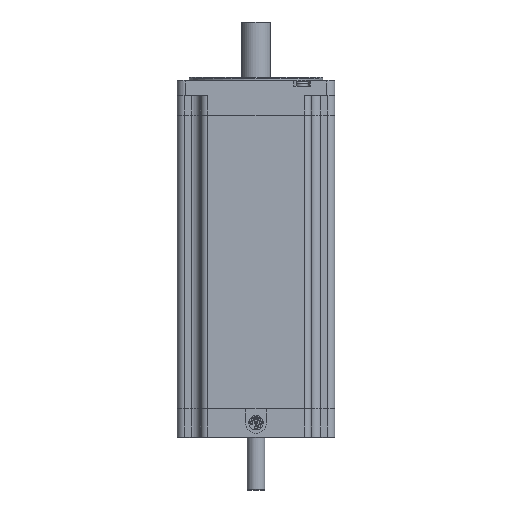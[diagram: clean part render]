
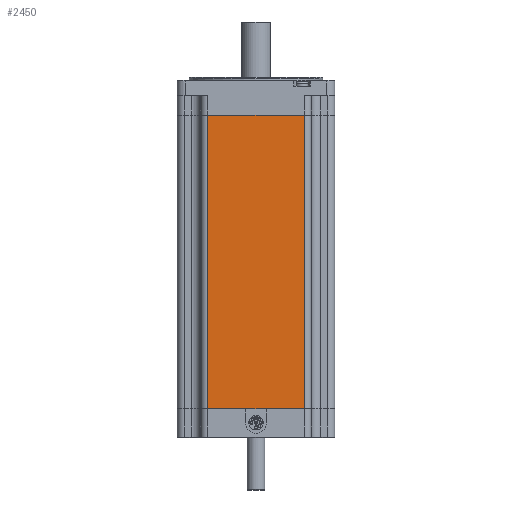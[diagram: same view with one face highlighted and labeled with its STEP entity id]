
A CAD part, front view. The second image highlights one B-rep face of the part: STEP entity #2450.
In plain terms, the highlighted planar face has unit normal (0, -1, 0).
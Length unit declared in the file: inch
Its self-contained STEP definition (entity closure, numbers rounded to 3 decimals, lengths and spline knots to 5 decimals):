
#451 = CARTESIAN_POINT ( 'NONE',  ( -1.04, -1.689, -7.055 ) ) ;
#584 = EDGE_CURVE ( 'NONE', #4942, #4908, #1018, .T. ) ;
#819 = CARTESIAN_POINT ( 'NONE',  ( 1.04, -1.689, -0.75 ) ) ;
#1018 = LINE ( 'NONE', #17700, #11270 ) ;
#1356 = EDGE_CURVE ( 'NONE', #4908, #12319, #10770, .T. ) ;
#1419 = EDGE_CURVE ( 'NONE', #17079, #12319, #13183, .T. ) ;
#2450 = ADVANCED_FACE ( 'NONE', ( #7520 ), #14602, .F. ) ;
#2888 = VECTOR ( 'NONE', #5825, 39.37008 ) ;
#3306 = LINE ( 'NONE', #4387, #2888 ) ;
#3399 = ORIENTED_EDGE ( 'NONE', *, *, #1419, .F. ) ;
#4387 = CARTESIAN_POINT ( 'NONE',  ( 1.04, -1.689, -7.055 ) ) ;
#4908 = VERTEX_POINT ( 'NONE', #13152 ) ;
#4942 = VERTEX_POINT ( 'NONE', #10808 ) ;
#5825 = DIRECTION ( 'NONE',  ( -1., 0., 0. ) ) ;
#5846 = ORIENTED_EDGE ( 'NONE', *, *, #1356, .T. ) ;
#6377 = CARTESIAN_POINT ( 'NONE',  ( -1.04, -1.689, -0.75 ) ) ;
#7269 = CARTESIAN_POINT ( 'NONE',  ( -1.04, -1.689, -7.055 ) ) ;
#7421 = ORIENTED_EDGE ( 'NONE', *, *, #584, .T. ) ;
#7520 = FACE_OUTER_BOUND ( 'NONE', #11241, .T. ) ;
#9100 = ORIENTED_EDGE ( 'NONE', *, *, #12566, .F. ) ;
#9472 = VECTOR ( 'NONE', #14807, 39.37008 ) ;
#10332 = VECTOR ( 'NONE', #13973, 39.37008 ) ;
#10538 = DIRECTION ( 'NONE',  ( 0., 1., 0. ) ) ;
#10770 = LINE ( 'NONE', #819, #10332 ) ;
#10808 = CARTESIAN_POINT ( 'NONE',  ( 1.04, -1.689, -7.055 ) ) ;
#11241 = EDGE_LOOP ( 'NONE', ( #5846, #3399, #9100, #7421 ) ) ;
#11270 = VECTOR ( 'NONE', #14400, 39.37008 ) ;
#12296 = DIRECTION ( 'NONE',  ( -1., 0., 0. ) ) ;
#12319 = VERTEX_POINT ( 'NONE', #6377 ) ;
#12407 = CARTESIAN_POINT ( 'NONE',  ( 1.04, -1.689, -7.055 ) ) ;
#12566 = EDGE_CURVE ( 'NONE', #4942, #17079, #3306, .T. ) ;
#13152 = CARTESIAN_POINT ( 'NONE',  ( 1.04, -1.689, -0.75 ) ) ;
#13183 = LINE ( 'NONE', #7269, #9472 ) ;
#13973 = DIRECTION ( 'NONE',  ( -1., 0., 0. ) ) ;
#14400 = DIRECTION ( 'NONE',  ( 0., 0., 1. ) ) ;
#14602 = PLANE ( 'NONE',  #16130 ) ;
#14807 = DIRECTION ( 'NONE',  ( 0., 0., 1. ) ) ;
#16130 = AXIS2_PLACEMENT_3D ( 'NONE', #12407, #10538, #12296 ) ;
#17079 = VERTEX_POINT ( 'NONE', #451 ) ;
#17700 = CARTESIAN_POINT ( 'NONE',  ( 1.04, -1.689, -7.055 ) ) ;
